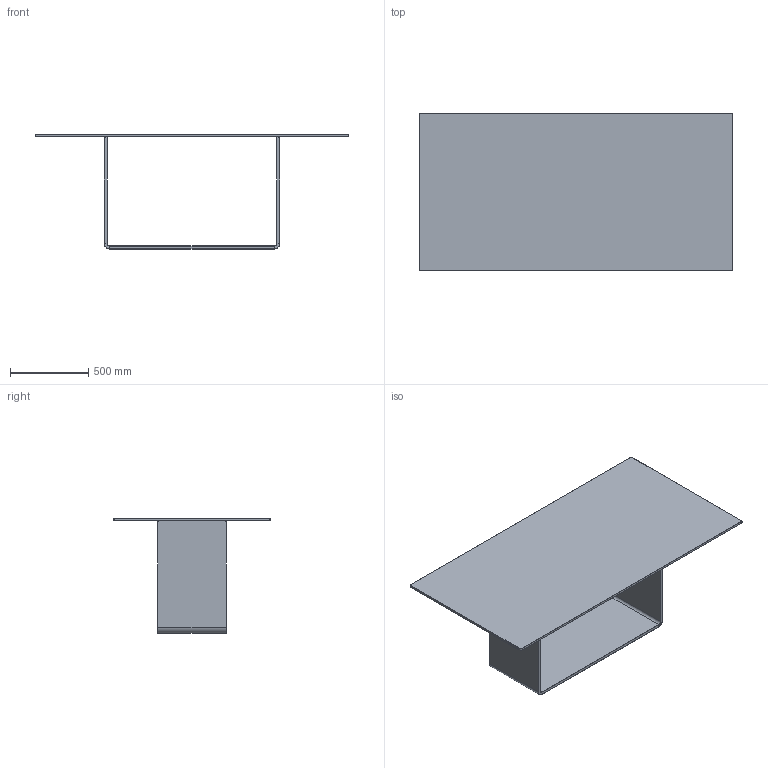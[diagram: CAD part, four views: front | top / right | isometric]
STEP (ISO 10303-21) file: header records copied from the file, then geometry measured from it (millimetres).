
FILE_DESCRIPTION((''),'2;1');
FILE_NAME('C:\AutodeskVault\AreaLavoro\Progetti\SoVeT Italia\1. Tavoli_Dining tables\Valencia\Valencia\Web file\Valencia Web\P1530.stp','2012-04-27T16:59:04',('Gianluca'),('So.Ve.T. s.r.l.'),'Autodesk Inventor 2011','Autodesk Inventor 2011','IL PROGETTO E'' DI ESCLUSIVA PROPRIETA'' DELLA SO.VE.T. srl. E'' VIETATA OGNI RIPRODUZIONE TOTALE O PARZIALE EQUALSIASI UTILIZZO NON AUTORIZZATO.');
FILE_SCHEMA(('AUTOMOTIVE_DESIGN { 1 0 10303 214 1 1 1 1 }'));
Length unit declared in the file: millimetre
Products named in the file (1): P1530 Contorno semplificato
Bounding box: 2000 x 1000 x 735.8 mm (x, y, z)
Volume: 51739793.2 mm3; surface area: 6386083.7 mm2
Topology: 2 solids, 2 shells, 98 faces, 202 edges, 112 vertices
Faces by surface type: plane 58, cone 24, cylinder 16
Full cylindrical faces by diameter (mm): 48 x4
Entity records: 2640 total; most frequent: DIRECTION 452, CARTESIAN_POINT 409, ORIENTED_EDGE 396, EDGE_CURVE 198, AXIS2_PLACEMENT_3D 155, VECTOR 142, LINE 142, VERTEX_POINT 112
